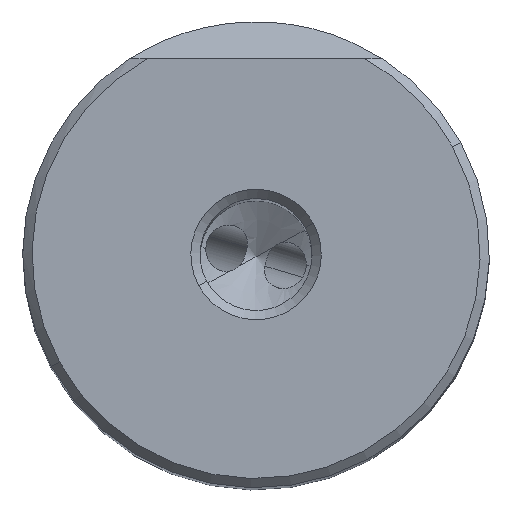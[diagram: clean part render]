
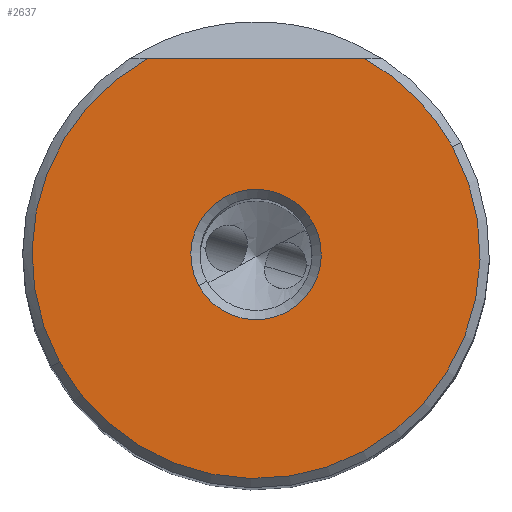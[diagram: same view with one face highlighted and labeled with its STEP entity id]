
A CAD part, top view. The second image highlights one B-rep face of the part: STEP entity #2637.
In plain terms, the highlighted planar face has unit normal (0, 0, 1).
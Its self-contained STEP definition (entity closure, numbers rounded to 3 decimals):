
#2512=AXIS2_PLACEMENT_3D('Circle Axis2P3D',#2510,#2511,$) ;
#2531=AXIS2_PLACEMENT_3D('Circle Axis2P3D',#2529,#2530,$) ;
#2550=AXIS2_PLACEMENT_3D('Circle Axis2P3D',#2548,#2549,$) ;
#2611=AXIS2_PLACEMENT_3D('Plane Axis2P3D',#2608,#2609,#2610) ;
#2621=AXIS2_PLACEMENT_3D('Circle Axis2P3D',#2619,#2620,$) ;
#2630=AXIS2_PLACEMENT_3D('Circle Axis2P3D',#2628,#2629,$) ;
#2478=CARTESIAN_POINT('Vertex',(-5.82,10.5,0.)) ;
#2481=CARTESIAN_POINT('Line Origine',(0.,10.5,0.)) ;
#2485=CARTESIAN_POINT('Vertex',(5.82,10.5,0.)) ;
#2510=CARTESIAN_POINT('Axis2P3D Location',(0.,0.,0.)) ;
#2514=CARTESIAN_POINT('Vertex',(10.535,5.756,0.)) ;
#2529=CARTESIAN_POINT('Axis2P3D Location',(0.,0.,0.)) ;
#2533=CARTESIAN_POINT('Vertex',(-10.535,-5.756,0.)) ;
#2548=CARTESIAN_POINT('Axis2P3D Location',(0.,0.,0.)) ;
#2608=CARTESIAN_POINT('Axis2P3D Location',(-12.005,0.,0.)) ;
#2619=CARTESIAN_POINT('Axis2P3D Location',(0.,0.,0.)) ;
#2623=CARTESIAN_POINT('Vertex',(-3.067,-1.676,0.)) ;
#2625=CARTESIAN_POINT('Vertex',(3.067,1.676,0.)) ;
#2628=CARTESIAN_POINT('Axis2P3D Location',(0.,0.,0.)) ;
#2482=DIRECTION('Vector Direction',(1.,0.,0.)) ;
#2511=DIRECTION('Axis2P3D Direction',(0.,0.,-1.)) ;
#2530=DIRECTION('Axis2P3D Direction',(0.,0.,-1.)) ;
#2549=DIRECTION('Axis2P3D Direction',(0.,0.,-1.)) ;
#2609=DIRECTION('Axis2P3D Direction',(0.,0.,1.)) ;
#2610=DIRECTION('Axis2P3D XDirection',(1.,0.,0.)) ;
#2620=DIRECTION('Axis2P3D Direction',(0.,0.,1.)) ;
#2629=DIRECTION('Axis2P3D Direction',(0.,0.,1.)) ;
#2483=VECTOR('Line Direction',#2482,1.) ;
#2614=ORIENTED_EDGE('',*,*,#2552,.T.) ;
#2615=ORIENTED_EDGE('',*,*,#2535,.T.) ;
#2616=ORIENTED_EDGE('',*,*,#2516,.T.) ;
#2617=ORIENTED_EDGE('',*,*,#2487,.F.) ;
#2634=ORIENTED_EDGE('',*,*,#2627,.F.) ;
#2635=ORIENTED_EDGE('',*,*,#2632,.F.) ;
#2636=FACE_BOUND('',#2633,.T.) ;
#2637=ADVANCED_FACE('NO_CUT',(#2618,#2636),#2612,.T.) ;
#2513=CIRCLE('generated circle',#2512,12.005) ;
#2532=CIRCLE('generated circle',#2531,12.005) ;
#2551=CIRCLE('generated circle',#2550,12.005) ;
#2622=CIRCLE('generated circle',#2621,3.495) ;
#2631=CIRCLE('generated circle',#2630,3.495) ;
#2487=EDGE_CURVE('',#2479,#2486,#2484,.T.) ;
#2516=EDGE_CURVE('',#2515,#2486,#2513,.F.) ;
#2535=EDGE_CURVE('',#2534,#2515,#2532,.F.) ;
#2552=EDGE_CURVE('',#2479,#2534,#2551,.F.) ;
#2627=EDGE_CURVE('',#2624,#2626,#2622,.T.) ;
#2632=EDGE_CURVE('',#2626,#2624,#2631,.T.) ;
#2613=EDGE_LOOP('',(#2614,#2615,#2616,#2617)) ;
#2633=EDGE_LOOP('',(#2634,#2635)) ;
#2618=FACE_OUTER_BOUND('',#2613,.T.) ;
#2484=LINE('Line',#2481,#2483) ;
#2612=PLANE('',#2611) ;
#2479=VERTEX_POINT('',#2478) ;
#2486=VERTEX_POINT('',#2485) ;
#2515=VERTEX_POINT('',#2514) ;
#2534=VERTEX_POINT('',#2533) ;
#2624=VERTEX_POINT('',#2623) ;
#2626=VERTEX_POINT('',#2625) ;
